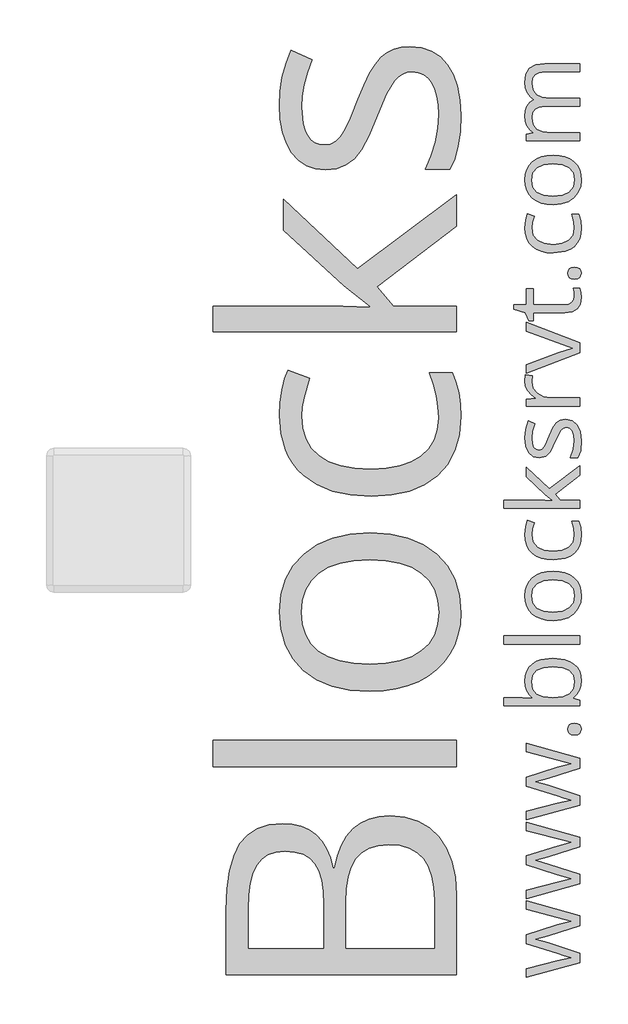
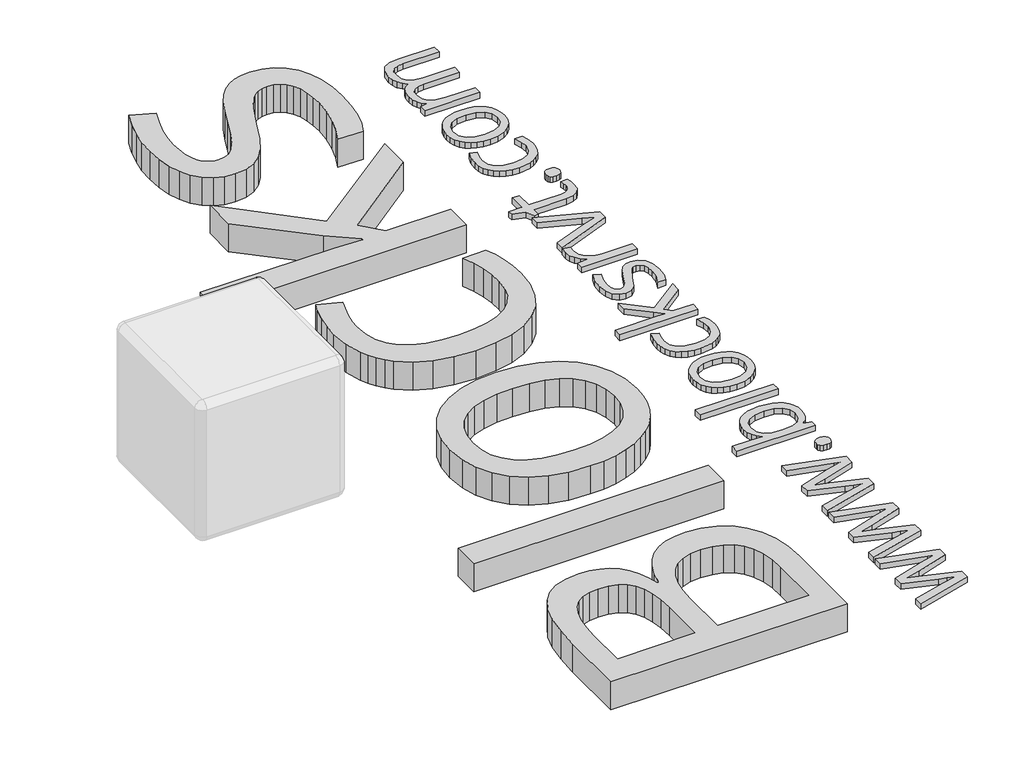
# One storey, part 12 of 12: 2 proxies.
"""IFC4 building model written with IfcOpenShell, lengths in millimetres."""

from ifc_helpers import new_model, si_unit, origin, origin_with_axes, place, context, project, spatial, polyline, outline, extrude, element, save

model = new_model("IFC4")

# Units and contexts
model_context = context("Model", 3, world=origin())
ifc_project = project(units=[si_unit("LENGTHUNIT", "METRE", prefix="MILLI")], contexts=[model_context])

# Site, building, storey
site = spatial("IfcSite", under=ifc_project)
building = spatial("IfcBuilding", under=site)
storey = spatial("IfcBuildingStorey", under=building, Name="PORTOBELLO - SHOWROOM", Elevation=0.0)

# Proxies
placement = place(None, origin())
element("IfcBuildingElementProxy", 1, Name="25mm OpenSans", ObjectType="25mm OpenSans", at=placement, inside=storey, context=model_context, shape_type="SweptSolid", body=[
    extrude(outline(polyline([(20620.8887015, 8602.650472), (20511.0770582, 8568.1703656), (20465.3534388, 8555.9524148), (20511.451842, 8542.535156), (20620.8887015, 8507.005655), (20620.8887015, 8474.0996404), (20433.7966457, 8422.7542645), (20433.7966457, 8452.5870522), (20541.1347162, 8480.3210509), (20590.8310435, 8491.2647368), (20565.6455745, 8498.6854554), (20541.1347162, 8506.0312172), (20433.7966457, 8540.5113236), (20433.7966457, 8571.3935059), (20541.2096729, 8605.0490881), (20590.5312165, 8618.0915631), (20571.567158, 8623.1886224), (20433.7966457, 8658.9429936), (20433.7966457, 8688.4759543), (20620.8887015, 8636.4559677), (20620.8887015, 8602.650472)])), origin_with_axes(), (0.0, 0.0, 1.0), 20.0),
    extrude(outline(polyline([(20620.8887015, 8876.0927074), (20511.0770582, 8841.612601), (20465.3534388, 8829.3946502), (20511.451842, 8815.9773914), (20620.8887015, 8780.4478904), (20620.8887015, 8747.5418758), (20433.7966457, 8696.1964999), (20433.7966457, 8726.0292876), (20541.1347162, 8753.7632863), (20590.8310435, 8764.7069723), (20565.6455745, 8772.1276908), (20541.1347162, 8779.4734526), (20433.7966457, 8813.9535591), (20433.7966457, 8844.8357414), (20541.2096729, 8878.4913235), (20590.5312165, 8891.5337986), (20571.567158, 8896.6308578), (20433.7966457, 8932.385229), (20433.7966457, 8961.9181897), (20620.8887015, 8909.8982031), (20620.8887015, 8876.0927074)])), origin_with_axes(), (0.0, 0.0, 1.0), 20.0),
    extrude(outline(polyline([(20620.8887015, 9149.5349428), (20511.0770582, 9115.0548364), (20465.3534388, 9102.8368856), (20511.451842, 9089.4196268), (20620.8887015, 9053.8901258), (20620.8887015, 9020.9841112), (20433.7966457, 8969.6387353), (20433.7966457, 8999.4715231), (20541.1347162, 9027.2055217), (20590.8310435, 9038.1492077), (20565.6455745, 9045.5699262), (20541.1347162, 9052.9156881), (20433.7966457, 9087.3957945), (20433.7966457, 9118.2779768), (20541.2096729, 9151.9335589), (20590.5312165, 9164.976034), (20571.567158, 9170.0730932), (20433.7966457, 9205.8274644), (20433.7966457, 9235.3604252), (20620.8887015, 9183.3404385), (20620.8887015, 9149.5349428)])), origin_with_axes(), (0.0, 0.0, 1.0), 20.0),
    extrude(outline(polyline([(20601.7747295, 9264.5186021), (20591.3651104, 9265.8209757), (20583.8225871, 9269.7280965), (20579.2408556, 9276.0713117), (20577.7136117, 9284.6819687), (20579.2408556, 9293.5456048), (20583.8225871, 9300.1980166), (20591.3651104, 9304.3581164), (20601.7747295, 9305.7448164), (20611.9782175, 9304.3300076), (20619.5020016, 9300.0855815), (20624.1399507, 9293.4050609), (20625.6859337, 9284.6819687), (20620.1016556, 9270.2527938), (20612.727785, 9265.95215), (20601.7747295, 9264.5186021)])), origin_with_axes(), (0.0, 0.0, 1.0), 20.0),
    extrude(outline(polyline([(20428.9994135, 9452.8849228), (20430.5992717, 9470.4693086), (20435.3988463, 9485.9689597), (20443.3981373, 9499.3838761), (20454.5971447, 9510.7140578), (20468.7194655, 9519.7158954), (20485.4886966, 9526.1457794), (20526.9678899, 9531.2896865), (20568.587627, 9526.0989314), (20585.4763205, 9519.6104874), (20599.7508971, 9510.5266659), (20611.0974756, 9499.142609), (20619.2021746, 9485.753459), (20624.0649939, 9470.3592158), (20625.6859337, 9452.9598795), (20623.971298, 9435.3169337), (20618.8273908, 9419.266819), (20610.1230379, 9405.2592757), (20597.7270648, 9393.7440445), (20597.7270648, 9391.6452555), (20620.8887015, 9385.6487152), (20620.8887015, 9365.3354351), (20357.0409305, 9365.3354351), (20357.0409305, 9393.6690878), (20419.6298194, 9393.6690878), (20457.4080229, 9392.3198662), (20444.9792563, 9404.8751224), (20436.1015659, 9418.4797731), (20430.7749516, 9434.4830399), (20428.9994135, 9452.8849228)]), holes=[polyline([(20452.9855745, 9448.9122148), (20457.2206311, 9423.6424194), (20469.9258007, 9406.5991277), (20492.6564361, 9396.9015978), (20526.9678899, 9393.6690878), (20561.4198875, 9396.9952937), (20584.4222411, 9406.9739115), (20597.3803898, 9424.2795518), (20601.6997727, 9449.5868256), (20596.8556926, 9472.664136), (20582.323452, 9488.9765994), (20558.7214444, 9498.6741293), (20526.6680628, 9501.9066393), (20494.2211583, 9498.6741293), (20471.2375439, 9488.9765994), (20457.5485669, 9472.4954833), (20452.9855745, 9448.9122148)])]), origin_with_axes(), (0.0, 0.0, 1.0), 20.0),
    extrude(outline(polyline([(20620.8887015, 9608.570099), (20620.8887015, 9580.2364463), (20357.0409305, 9580.2364463), (20357.0409305, 9608.570099), (20620.8887015, 9608.570099)])), origin_with_axes(), (0.0, 0.0, 1.0), 20.0),
    extrude(outline(polyline([(20527.1927601, 9833.5153152), (20549.1199528, 9832.0747401), (20568.5033007, 9827.7530148), (20585.3428038, 9820.5501393), (20599.638462, 9810.4661136), (20611.0342309, 9797.8476127), (20619.1740658, 9783.0413115), (20624.0579667, 9766.0472101), (20625.6859337, 9746.8653085), (20622.6970332, 9723.169605), (20613.7303316, 9702.3035188), (20599.1793519, 9685.0728352), (20579.437617, 9672.2833392), (20555.2078466, 9664.3566625), (20527.1927601, 9661.714437), (20505.274937, 9663.1433001), (20485.9196979, 9667.4298894), (20469.1270428, 9674.5742049), (20454.8969717, 9684.5762467), (20443.56679, 9697.1174484), (20435.4738031, 9711.879244), (20430.6180109, 9728.8616334), (20428.9994135, 9748.0646166), (20430.6554893, 9766.6609186), (20435.6237166, 9783.2474426), (20443.9040954, 9797.8241887), (20455.4966257, 9810.3911568), (20469.9140887, 9820.5079761), (20486.6692654, 9827.7342756), (20505.7621559, 9832.0700553), (20527.1927601, 9833.5153152)]), holes=[polyline([(20526.9678899, 9691.172441), (20559.1243369, 9694.7516259), (20582.5858007, 9705.4891808), (20596.9212797, 9723.1602354), (20601.6997727, 9747.5399193), (20596.9400189, 9771.9383425), (20582.6607574, 9789.6656146), (20559.2180329, 9800.459387), (20526.9678899, 9804.0573112), (20495.0456826, 9800.459387), (20471.8371979, 9789.6656146), (20457.6984804, 9771.8446465), (20452.9855745, 9747.1651356), (20457.6328932, 9722.8322996), (20471.5748493, 9705.3017889), (20494.7177468, 9694.704778), (20526.9678899, 9691.172441)])]), origin_with_axes(), (0.0, 0.0, 1.0), 20.0),
    extrude(outline(polyline([(20625.6859337, 9958.9179631), (20624.1001299, 9939.574436), (20619.3427185, 9922.5451987), (20611.4136994, 9907.8302511), (20600.3130728, 9895.4295932), (20586.3125567, 9885.5915194), (20569.6838695, 9878.5643238), (20528.5419817, 9872.9425673), (20506.0947765, 9874.369088), (20486.3506992, 9878.6486501), (20469.3097499, 9885.7812537), (20454.9719285, 9895.7668986), (20443.6089532, 9908.3900843), (20435.4925422, 9923.4353101), (20430.6226957, 9940.902576), (20428.9994135, 9960.791882), (20431.7728134, 9988.0386617), (20438.2940509, 10009.363858), (20461.7555146, 10000.5939179), (20455.4966257, 9979.8683756), (20452.9855745, 9960.0423144), (20457.6750564, 9934.8240518), (20471.743502, 9916.8110071), (20495.1909113, 9906.0031802), (20528.0172844, 9902.4005713), (20559.4803815, 9905.9141691), (20582.6607574, 9916.4549625), (20596.9400189, 9933.8917772), (20601.6997727, 9958.0934389), (20599.1699823, 9982.0608607), (20591.580611, 10006.5904581), (20616.2413828, 10006.5904581), (20623.324796, 9985.1903051), (20625.6859337, 9958.9179631)])), origin_with_axes(), (0.0, 0.0, 1.0), 20.0),
    extrude(outline(polyline([(20527.0428466, 10078.1741574), (20499.1589344, 10101.0359671), (20433.7966457, 10161.0013696), (20433.7966457, 10194.3571247), (20513.550631, 10119.1005446), (20620.8887015, 10199.6040975), (20620.8887015, 10165.4987748), (20534.5385219, 10099.9116158), (20552.5281427, 10078.9237249), (20620.8887015, 10078.9237249), (20620.8887015, 10050.8898992), (20357.0409305, 10050.8898992), (20357.0409305, 10078.9237249), (20498.0345831, 10078.9237249), (20527.0428466, 10078.1741574)])), origin_with_axes(), (0.0, 0.0, 1.0), 20.0),
    extrude(outline(polyline([(20570.4428067, 10359.8616356), (20593.9323792, 10354.9613379), (20611.3317155, 10340.2604447), (20622.0973792, 10316.7146546), (20625.6859337, 10285.2796663), (20622.725142, 10251.9801287), (20613.8427667, 10226.8883556), (20587.3080761, 10226.8883556), (20597.8394999, 10256.0465326), (20601.6997727, 10286.0292338), (20599.9195498, 10305.8459254), (20594.5788812, 10320.4718619), (20585.5840708, 10329.494781), (20572.8414228, 10332.5024208), (20562.5536084, 10330.1131742), (20553.8773642, 10322.9454347), (20535.2880894, 10285.7294068), (20518.0480362, 10248.325987), (20501.3701587, 10231.7980229), (20478.9955678, 10226.3636583), (20458.2700256, 10231.0484554), (20442.4166723, 10245.1028466), (20432.3537282, 10267.3275239), (20428.9994135, 10296.5231793), (20432.1101188, 10326.5620981), (20441.4422345, 10355.9638845), (20464.6038712, 10345.7697661), (20455.8901487, 10318.7103782), (20452.9855745, 10294.3494334), (20454.5877751, 10276.5284654), (20459.3943769, 10263.6921214), (20467.0305961, 10255.9340974), (20477.121649, 10253.3480894), (20490.1266457, 10257.2083622), (20500.3207641, 10269.6886616), (20514.3751553, 10302.7445898), (20526.7055412, 10330.8252634), (20539.1108839, 10348.055947), (20553.1652751, 10356.9102135), (20570.4428067, 10359.8616356)])), origin_with_axes(), (0.0, 0.0, 1.0), 20.0),
    extrude(outline(polyline([(20428.9994135, 10492.3102184), (20430.8733323, 10514.9471579), (20455.5341041, 10510.97445), (20452.9855745, 10490.2863861), (20457.6797412, 10468.9518202), (20471.7622412, 10450.9715691), (20492.8531976, 10438.7442487), (20518.5727335, 10434.6684753), (20620.8887015, 10434.6684753), (20620.8887015, 10406.3348226), (20433.7966457, 10406.3348226), (20433.7966457, 10429.7213296), (20467.3772711, 10432.9444699), (20451.0554381, 10445.9307274), (20438.9686617, 10459.7040308), (20431.4917255, 10475.2762963), (20428.9994135, 10492.3102184)])), origin_with_axes(), (0.0, 0.0, 1.0), 20.0),
    extrude(outline(polyline([(20620.8887015, 10591.9277433), (20433.7966457, 10519.9692603), (20433.7966457, 10550.7764859), (20544.7326403, 10591.6279163), (20595.253492, 10607.818575), (20557.7751154, 10621.2358338), (20433.7966457, 10666.6596262), (20433.7966457, 10697.4668517), (20620.8887015, 10625.5083687), (20620.8887015, 10591.9277433)])), origin_with_axes(), (0.0, 0.0, 1.0), 20.0),
    extrude(outline(polyline([(20601.6997727, 10788.8391338), (20600.5754214, 10803.5306574), (20598.2517621, 10814.7741704), (20620.438961, 10814.7741704), (20624.1867987, 10801.0570846), (20625.6859337, 10784.7914691), (20622.125488, 10760.786569), (20611.4441506, 10743.6402117), (20593.6419218, 10733.3523973), (20568.7188013, 10729.9231259), (20457.7828067, 10729.9231259), (20457.7828067, 10702.7887812), (20443.7658939, 10702.7887812), (20431.6228999, 10729.7732123), (20390.6215559, 10741.8412496), (20390.6215559, 10758.3317353), (20433.7966457, 10758.3317353), (20433.7966457, 10813.4249488), (20457.7828067, 10813.4249488), (20457.7828067, 10758.3317353), (20566.994796, 10758.3317353), (20581.8268635, 10760.3649372), (20592.7424407, 10766.464543), (20599.4604397, 10776.1245946), (20601.6997727, 10788.8391338)])), origin_with_axes(), (0.0, 0.0, 1.0), 20.0),
    extrude(outline(polyline([(20601.7747295, 10847.6052283), (20591.3651104, 10848.9076019), (20583.8225871, 10852.8147226), (20579.2408556, 10859.1579378), (20577.7136117, 10867.7685949), (20579.2408556, 10876.6322309), (20583.8225871, 10883.2846428), (20591.3651104, 10887.4447426), (20601.7747295, 10888.8314425), (20611.9782175, 10887.4166338), (20619.5020016, 10883.1722076), (20624.1399507, 10876.491687), (20625.6859337, 10867.7685949), (20620.1016556, 10853.3394199), (20612.727785, 10849.0387762), (20601.7747295, 10847.6052283)])), origin_with_axes(), (0.0, 0.0, 1.0), 20.0),
    extrude(outline(polyline([(20625.6859337, 11023.9035116), (20624.1001299, 11004.5599845), (20619.3427185, 10987.5307472), (20611.4136994, 10972.8157996), (20600.3130728, 10960.4151417), (20586.3125567, 10950.5770679), (20569.6838695, 10943.5498723), (20528.5419817, 10937.9281158), (20506.0947765, 10939.3546365), (20486.3506992, 10943.6341986), (20469.3097499, 10950.7668022), (20454.9719285, 10960.7524471), (20443.6089532, 10973.3756328), (20435.4925422, 10988.4208586), (20430.6226957, 11005.8881245), (20428.9994135, 11025.7774305), (20431.7728134, 11053.0242102), (20438.2940509, 11074.3494065), (20461.7555146, 11065.5794664), (20455.4966257, 11044.8539241), (20452.9855745, 11025.0278629), (20457.6750564, 10999.8096003), (20471.743502, 10981.7965556), (20495.1909113, 10970.9887287), (20528.0172844, 10967.3861198), (20559.4803815, 10970.8997176), (20582.6607574, 10981.440511), (20596.9400189, 10998.8773257), (20601.6997727, 11023.0789874), (20599.1699823, 11047.0464092), (20591.580611, 11071.5760066), (20616.2413828, 11071.5760066), (20623.324796, 11050.1758536), (20625.6859337, 11023.9035116)])), origin_with_axes(), (0.0, 0.0, 1.0), 20.0),
    extrude(outline(polyline([(20527.1927601, 11277.4822075), (20549.1199528, 11276.0416324), (20568.5033007, 11271.7199071), (20585.3428038, 11264.5170316), (20599.638462, 11254.4330059), (20611.0342309, 11241.814505), (20619.1740658, 11227.0082038), (20624.0579667, 11210.0141025), (20625.6859337, 11190.8322009), (20622.6970332, 11167.1364973), (20613.7303316, 11146.2704111), (20599.1793519, 11129.0397275), (20579.437617, 11116.2502315), (20555.2078466, 11108.3235548), (20527.1927601, 11105.6813293), (20505.274937, 11107.1101924), (20485.9196979, 11111.3967817), (20469.1270428, 11118.5410973), (20454.8969717, 11128.543139), (20443.56679, 11141.0843408), (20435.4738031, 11155.8461363), (20430.6180109, 11172.8285257), (20428.9994135, 11192.0315089), (20430.6554893, 11210.6278109), (20435.6237166, 11227.2143349), (20443.9040954, 11241.791081), (20455.4966257, 11254.3580491), (20469.9140887, 11264.4748684), (20486.6692654, 11271.7011679), (20505.7621559, 11276.0369476), (20527.1927601, 11277.4822075)]), holes=[polyline([(20526.9678899, 11135.1393333), (20559.1243369, 11138.7185182), (20582.5858007, 11149.4560731), (20596.9212797, 11167.1271277), (20601.6997727, 11191.5068116), (20596.9400189, 11215.9052348), (20582.6607574, 11233.6325069), (20559.2180329, 11244.4262793), (20526.9678899, 11248.0242035), (20495.0456826, 11244.4262793), (20471.8371979, 11233.6325069), (20457.6984804, 11215.8115388), (20452.9855745, 11191.1320279), (20457.6328932, 11166.7991919), (20471.5748493, 11149.2686812), (20494.7177468, 11138.6716703), (20526.9678899, 11135.1393333)])]), origin_with_axes(), (0.0, 0.0, 1.0), 20.0),
    extrude(outline(polyline([(20620.8887015, 11566.5154476), (20498.1095399, 11566.5154476), (20478.367805, 11564.1168315), (20464.2665659, 11556.9209832), (20455.8058223, 11544.665554), (20452.9855745, 11527.0881954), (20456.8177385, 11504.0202546), (20468.3142305, 11487.8858135), (20487.7748776, 11478.3850451), (20515.4995066, 11475.2181222), (20620.8887015, 11475.2181222), (20620.8887015, 11446.8095128), (20498.1095399, 11446.8095128), (20478.367805, 11444.4108967), (20464.2665659, 11437.2150484), (20455.8058223, 11424.9221409), (20452.9855745, 11407.2323471), (20457.0145, 11384.0519712), (20469.1012764, 11368.0299653), (20490.3515159, 11358.6978495), (20521.8708306, 11355.5871442), (20620.8887015, 11355.5871442), (20620.8887015, 11327.2534916), (20433.7966457, 11327.2534916), (20433.7966457, 11350.3401715), (20457.7828067, 11354.9125335), (20445.7053999, 11365.9967633), (20436.607524, 11379.0111296), (20430.9014411, 11394.5365471), (20428.9994135, 11411.8047091), (20430.9670283, 11431.9024885), (20436.8698726, 11448.1962127), (20446.7079464, 11460.6858817), (20460.4812498, 11469.3714955), (20447.457514, 11480.9991618), (20437.4695266, 11495.0441834), (20431.1169418, 11512.0874752), (20428.9994135, 11531.3607303), (20433.1032957, 11559.2165337), (20445.4149424, 11579.0707037), (20466.7588779, 11590.9607187), (20497.9596264, 11594.924057), (20620.8887015, 11594.924057), (20620.8887015, 11566.5154476)])), origin_with_axes(), (0.0, 0.0, 1.0), 20.0),
])
element("IfcBuildingElementProxy", 2, Name="80mm OpenSans", ObjectType="80mm OpenSans", at=placement, inside=storey, context=model_context, shape_type="SweptSolid", body=[
    extrude(outline(polyline([(19391.5052945, 8431.7963179), (19391.5052945, 8656.7794385), (19394.4422737, 8730.6095364), (19403.2532112, 8793.4578861), (19417.9381071, 8845.3244876), (19438.4969613, 8886.2093409), (19465.3954841, 8917.1790726), (19499.0993857, 8939.3003096), (19539.6086662, 8952.5730518), (19586.9233256, 8956.9972992), (19620.5821585, 8954.5260303), (19651.1312487, 8947.1122235), (19678.5705963, 8934.7558789), (19702.9002013, 8917.4569965), (19723.6843992, 8895.425897), (19740.4875255, 8868.8729011), (19753.3095804, 8837.798009), (19762.1505637, 8802.2012205), (19767.4386285, 8802.2012205), (19777.35375, 8844.7348383), (19791.3551034, 8881.5973071), (19809.4426887, 8912.7886268), (19831.6165059, 8938.3087975), (19857.8765549, 8958.1578191), (19888.2228359, 8972.3356917), (19922.6553487, 8980.8424153), (19961.1740935, 8983.6779898), (20012.4097327, 8979.1636049), (20057.7113219, 8965.6204503), (20097.0788611, 8943.048526), (20130.5123504, 8911.4478319), (20157.1705066, 8871.7497887), (20176.2120467, 8824.8858167), (20187.6369708, 8770.8559159), (20191.4452789, 8709.6600865), (20191.4452789, 8431.7963179), (19391.5052945, 8431.7963179)]), holes=[polyline([(19729.9414417, 8524.8181851), (19729.9414417, 8676.7298648), (19728.0109976, 8722.2117289), (19722.2196653, 8760.8281226), (19712.5674448, 8792.5790458), (19699.054336, 8817.4644984), (19680.9742622, 8836.2356262), (19657.6211464, 8849.6435746), (19628.9949888, 8857.6883436), (19595.0957893, 8860.3699333), (19563.8932024, 8857.3803739), (19537.3477181, 8848.4116959), (19515.4593362, 8833.4638991), (19498.2280569, 8812.5369835), (19485.1881698, 8785.1051474), (19475.8739648, 8750.6425887), (19470.2854417, 8709.1493075), (19468.4226007, 8660.6253038), (19468.4226007, 8524.8181851), (19729.9414417, 8524.8181851)]), polyline([(19806.8587479, 8524.8181851), (20114.5279727, 8524.8181851), (20114.5279727, 8690.43076), (20112.1167954, 8735.5370513), (20104.8832636, 8774.7092927), (20092.8273772, 8807.9474841), (20075.9491363, 8835.2516255), (20053.9480826, 8856.5466024), (20026.5237579, 8871.7573001), (19993.6761622, 8880.8837188), (19955.4052955, 8883.9258583), (19919.7108581, 8880.8161157), (19889.0641189, 8871.4868877), (19863.465078, 8855.9381745), (19842.9137352, 8834.1699759), (19827.1396783, 8806.0621087), (19815.8724947, 8771.4943897), (19809.1121846, 8730.4668187), (19806.8587479, 8682.9793959), (19806.8587479, 8524.8181851)])]), origin_with_axes(), (0.0, 0.0, 1.0), 100.0),
    extrude(outline(polyline([(20191.4452789, 9245.4371974), (20191.4452789, 9154.5786295), (19345.3549108, 9154.5786295), (19345.3549108, 9245.4371974), (20191.4452789, 9245.4371974)])), origin_with_axes(), (0.0, 0.0, 1.0), 100.0),
    extrude(outline(polyline([(19890.9870516, 9966.7773095), (19961.3017882, 9962.1577642), (20023.459084, 9948.2991285), (20077.4589389, 9925.2014023), (20123.3013529, 9892.8645856), (20159.8445848, 9852.4003738), (20185.9468933, 9804.9204624), (20201.6082784, 9750.4248515), (20206.8287401, 9688.9135409), (20204.4325857, 9649.7863682), (20197.2441226, 9612.9276552), (20185.2633508, 9578.3374018), (20168.4902703, 9546.015608), (20147.2403622, 9516.608259), (20121.8291076, 9490.76134), (20092.2565066, 9468.474851), (20058.5225591, 9449.748792), (20021.1906244, 9434.9211784), (19980.8240615, 9424.3300259), (19937.4228706, 9417.9753344), (19890.9870516, 9415.8571039), (19820.7023608, 9420.4390919), (19758.6352025, 9434.1850558), (19704.7855767, 9457.0949956), (19659.1534834, 9489.1689114), (19622.8205723, 9529.3852451), (19596.8684929, 9576.7224388), (19581.2972452, 9631.1804925), (19576.1068294, 9692.7594062), (19581.4174285, 9752.3928528), (19597.349226, 9805.5814705), (19623.9022219, 9852.3252592), (19661.0764161, 9892.624219), (19707.3094258, 9925.0661961), (19761.0388683, 9948.2390368), (19822.2647435, 9962.1427413), (19890.9870516, 9966.7773095)]), holes=[polyline([(19890.2659518, 9510.3211706), (19945.3098991, 9513.1905466), (19993.3832154, 9521.7986749), (20034.4859009, 9536.1455552), (20068.6179555, 9556.2311877), (20095.4338523, 9581.8752974), (20114.5880643, 9612.8976094), (20126.0805915, 9649.2981236), (20129.9114339, 9691.0768401), (20126.0956144, 9732.8705795), (20114.648156, 9769.3161625), (20095.5690585, 9800.413589), (20068.8583221, 9826.1628591), (20034.8013821, 9846.353652), (19993.6836737, 9860.7756469), (19945.5051969, 9869.4288438), (19890.2659518, 9872.3132428), (19835.5900659, 9869.4288438), (19787.8998338, 9860.7756469), (19747.1952554, 9846.353652), (19713.4763309, 9826.1628591), (19687.0284954, 9800.3384745), (19668.1371844, 9769.0157043), (19656.8023978, 9732.1945485), (19653.0241356, 9689.8750072), (19656.7498176, 9648.133848), (19667.9268636, 9611.8460056), (19686.5552737, 9581.01148), (19712.6350479, 9555.6302712), (19746.0910715, 9535.8075397), (19786.84823, 9521.6484457), (19834.9065234, 9513.1529894), (19890.2659518, 9510.3211706)])]), origin_with_axes(), (0.0, 0.0, 1.0), 100.0),
    extrude(outline(polyline([(20206.8287401, 10368.9106009), (20201.7434846, 10306.8809998), (20186.4877181, 10252.272717), (20161.0614406, 10205.0857524), (20125.4646521, 10165.3201061), (20080.5686815, 10133.7719922), (20027.2448576, 10111.2376251), (19965.4931805, 10097.7170049), (19895.31365, 10093.2101315), (19823.3313702, 10097.784608), (19760.0173103, 10111.5080376), (19705.3714702, 10134.3804201), (19659.39385, 10166.4017557), (19639.8734545, 10185.6705174), (19622.9557785, 10206.8809904), (19608.6408218, 10230.0331746), (19596.9285845, 10255.1270702), (19581.3122682, 10311.1399952), (19576.1068294, 10374.9197654), (19578.3302203, 10418.6364375), (19585.0003929, 10462.2930179), (19594.6751478, 10501.2023583), (19605.9122855, 10530.6773104), (19681.1470256, 10502.5544204), (19661.0764161, 10436.0930605), (19655.0372057, 10402.2314183), (19653.0241356, 10372.5160996), (19656.7836191, 10329.193779), (19668.0620698, 10291.6477677), (19686.8594877, 10259.8780659), (19713.1758727, 10233.8846735), (19747.0112248, 10213.6675906), (19788.365544, 10199.226817), (19837.2388304, 10190.5623529), (19893.631084, 10187.6741982), (19947.3980837, 10190.4909941), (19994.5249567, 10198.9413817), (20035.0117028, 10213.0253611), (20068.8583221, 10232.7429323), (20095.5690585, 10257.9889348), (20114.648156, 10288.6582084), (20126.0956144, 10324.7507529), (20129.9114339, 10366.2665685), (20127.8833409, 10404.4698321), (20121.7990618, 10443.123783), (20111.6585966, 10482.2284213), (20097.4619454, 10521.7837469), (20176.5425508, 10521.7837469), (20189.7927586, 10489.4243958), (20199.2571928, 10453.1590878), (20204.9358533, 10412.9878228), (20206.8287401, 10368.9106009)])), origin_with_axes(), (0.0, 0.0, 1.0), 100.0),
    extrude(outline(polyline([(19890.5063184, 10753.4971318), (19801.08995, 10824.64564), (19591.4902906, 11016.9389055), (19591.4902906, 11123.9020344), (19847.2403337, 10882.5739862), (20191.4452789, 11140.7276951), (20191.4452789, 11031.3609004), (19914.5429766, 10821.0401413), (19972.2309562, 10753.7374984), (20191.4452789, 10753.7374984), (20191.4452789, 10663.8403968), (19345.3549108, 10663.8403968), (19345.3549108, 10753.7374984), (19797.4844512, 10753.7374984), (19890.5063184, 10749.1705333), (19890.5063184, 10753.4971318)])), origin_with_axes(), (0.0, 0.0, 1.0), 100.0),
    extrude(outline(polyline([(20029.6785693, 11654.6314471), (20069.7822312, 11650.7029558), (20105.0034469, 11638.9174818), (20135.3422164, 11619.2750252), (20160.7985397, 11591.7755859), (20180.9367524, 11557.1853325), (20195.32119, 11516.2704334), (20203.9518526, 11469.0308886), (20206.8287401, 11415.4666982), (20204.4551201, 11358.7852536), (20197.3342601, 11308.6838442), (20185.4661601, 11265.16247), (20168.8508202, 11228.2211309), (20083.7610502, 11228.2211309), (20102.9002393, 11273.3499567), (20117.5325549, 11321.7237312), (20126.8167142, 11370.7585139), (20129.9114339, 11417.870364), (20128.4842573, 11451.7244947), (20124.2027276, 11481.4172791), (20117.0668447, 11506.9487169), (20107.0766086, 11528.3188083), (20094.1569049, 11545.1970492), (20078.2326188, 11557.2529356), (20059.3037505, 11564.4864674), (20037.3702999, 11566.8976447), (20020.229158, 11564.9822235), (20004.3799865, 11559.2359599), (19989.8227854, 11549.6588539), (19976.5575547, 11536.2509055), (19949.0355811, 11491.092034), (19916.9466424, 11416.9088977), (19887.2613696, 11344.7388315), (19861.6623286, 11296.9659733), (19836.513975, 11265.9286384), (19808.1807641, 11243.965142), (19775.2805882, 11230.8952091), (19736.4313395, 11226.5385648), (19701.247681, 11230.2942927), (19669.9699796, 11241.5614762), (19642.5982351, 11260.3401154), (19619.1324475, 11286.6302103), (19600.3087396, 11319.4702945), (19586.8632339, 11357.8989018), (19578.7959305, 11401.9160321), (19576.1068294, 11451.5216854), (19578.6006327, 11499.9405288), (19586.0820425, 11547.8485931), (19598.551059, 11595.2458785), (19616.007682, 11642.1323848), (19690.2809557, 11609.4425297), (19673.9810969, 11564.9747121), (19662.3383406, 11522.6701937), (19655.3526868, 11482.5289745), (19653.0241356, 11444.5510546), (19658.1619712, 11387.4038997), (19664.5842659, 11364.824464), (19673.5754783, 11346.2411226), (19684.8351504, 11331.7289902), (19698.0628238, 11321.3631814), (19713.2584987, 11315.1436961), (19730.4221749, 11313.0705343), (19753.1067711, 11316.165254), (19772.1257769, 11325.4494133), (19788.8913459, 11341.6441117), (19804.815632, 11365.4704491), (19823.8346378, 11405.7919432), (19849.8843661, 11471.4721117), (19869.6244716, 11520.8449099), (19889.4246688, 11561.5194424), (19909.2849576, 11593.4957093), (19929.2053381, 11616.7737104), (19950.4477348, 11633.3364702), (19974.2740722, 11645.1670129), (20000.6843504, 11652.2653385), (20029.6785693, 11654.6314471)])), origin_with_axes(), (0.0, 0.0, 1.0), 100.0),
])

save(model, "model.ifc")
